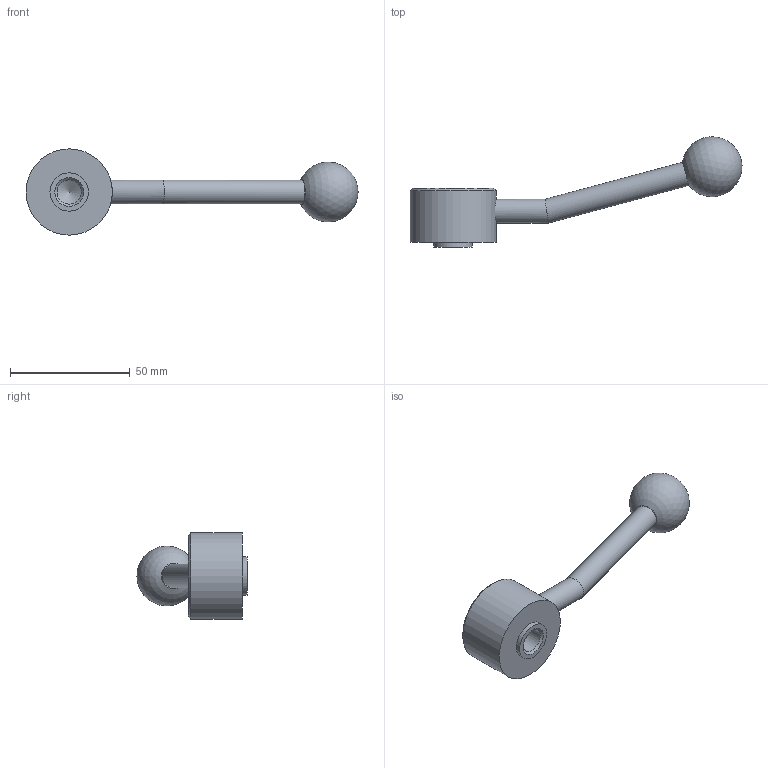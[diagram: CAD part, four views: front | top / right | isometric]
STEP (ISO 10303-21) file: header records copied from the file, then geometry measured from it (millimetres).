
FILE_DESCRIPTION( ( 'STEP AP203' ), '1' );
FILE_NAME( 'C:/Temp/Ganter_Step_05_03_2020/data/2_1/gn_125/gn_125_mb/gn_125_mb_e/Flat Adjustable Lever GN 125-36-M12-E.stp', '2020-03-05T11:00:42', ( 'License CC BY-ND 4.0' ), ( 'CADENAS' ), ' ', 'PARTsolutions', ' ' );
FILE_SCHEMA( ( 'CONFIG_CONTROL_DESIGN' ) );
Length unit declared in the file: millimetre
Products named in the file (1): _Flat Adjustable Lever GN 125-36-M12-E
Bounding box: 138.41 x 45.96 x 36 mm (x, y, z)
Volume: 36405.7 mm3; surface area: 9432.6 mm2
Topology: 1 solids, 1 shells, 15 faces, 27 edges, 17 vertices
Faces by surface type: cylinder 6, plane 5, cone 3, sphere 1
Full cylindrical faces by diameter (mm): 10 x2, 10.106 x1, 16 x1, 26 x1, 36 x1
Entity records: 416 total; most frequent: CARTESIAN_POINT 119, DIRECTION 58, AXIS2_PLACEMENT_3D 29, EDGE_LOOP 28, ORIENTED_EDGE 28, FACE_OUTER_BOUND 21, VERTEX_POINT 16, ADVANCED_FACE 15
